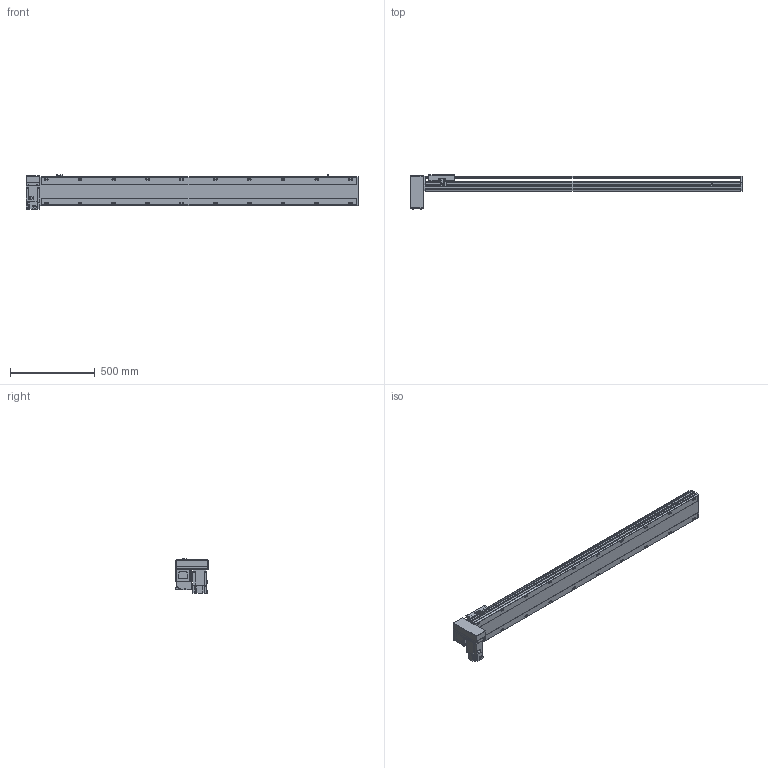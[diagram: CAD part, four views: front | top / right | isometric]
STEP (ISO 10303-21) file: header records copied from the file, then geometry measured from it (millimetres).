
FILE_DESCRIPTION(/* description */ ('STEP AP214'),/* implementation_level */ '2;1');
FILE_NAME(/* name */ 'PBS170-P40-S1600-RD-T75-C1-N(0)',/* time_stamp */ '2022-06-08T07:36:17+02:00',/* author */ ('License CC BY-ND 4.0'),/* organization */ ('CADENAS'),/* preprocessor_version */ 'ST-DEVELOPER v18.102',/* originating_system */ 'PARTsolutions',/* authorisation */ ' ');
FILE_SCHEMA (('AUTOMOTIVE_DESIGN {1 0 10303 214 3 1 1}'));
Length unit declared in the file: millimetre
Products named in the file (7): PBS170-P40-S1600-RD-T75-C1-N(0); PBS170_sensor; PBS170_plant; PBS170_sliser; T75-p1; PBS170T-RD_motors; PBS170-S1600()_body
Assembly tree (8 placements, depth 2):
  PBS170-P40-S1600-RD-T75-C1-N(0)
    PBS170_sensor  x3
    PBS170_plant
    PBS170_sliser
    T75-p1
    PBS170T-RD_motors
    PBS170-S1600()_body
Bounding box: 1963 x 201 x 205.3 mm (x, y, z)
Volume: 15267844.8 mm3; surface area: 1955094.3 mm2
Topology: 8 solids, 8 shells, 1114 faces, 2955 edges, 1926 vertices
Faces by surface type: plane 699, cylinder 355, cone 50, sphere 8, torus 2
Full cylindrical faces by diameter (mm): 3.242 x4, 4 x2, 4.4 x4, 4.5 x6, 4.917 x4, 6 x9, 6.647 x28, 7 x2, 7.5 x4, 8 x8, 8.5 x20, 10 x4, 10.5 x20, 11 x2, 30 x2, 40 x1, 70 x1
Entity records: 32034 total; most frequent: CARTESIAN_POINT 5937, DIRECTION 5440, ORIENTED_EDGE 5148, EDGE_CURVE 2574, AXIS2_PLACEMENT_3D 1897, VERTEX_POINT 1778, LINE 1646, VECTOR 1646
